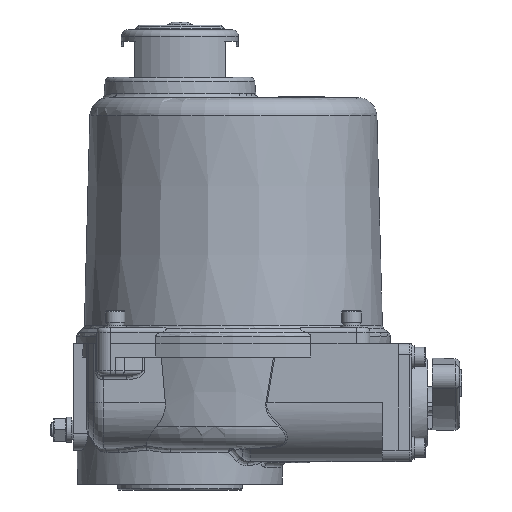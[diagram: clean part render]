
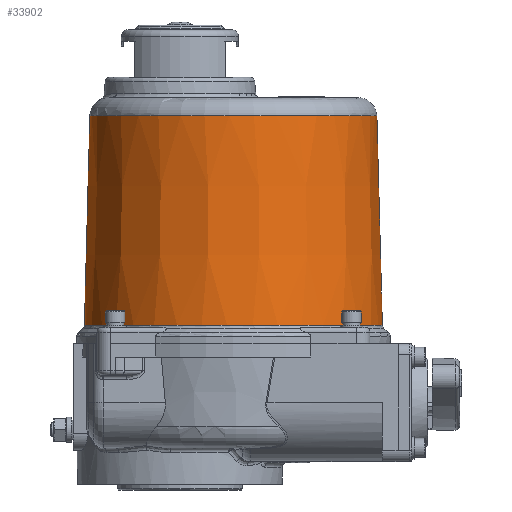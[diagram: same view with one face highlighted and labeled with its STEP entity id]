
A CAD part, left-side view. The second image highlights one B-rep face of the part: STEP entity #33902.
In plain terms, the highlighted conical face has half-angle 1.5 degrees and reference radius 64.336 mm.
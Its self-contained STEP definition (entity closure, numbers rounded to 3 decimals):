
#33902=ADVANCED_FACE('',(#54180,#54182),#54184,.T.);
#54180=FACE_BOUND('',#54181,.T.);
#54181=EDGE_LOOP('',(#68514,#68515));
#54182=FACE_BOUND('',#54183,.T.);
#54183=EDGE_LOOP('',(#68516,#68517));
#54184=CONICAL_SURFACE('',#54185,64.336,0.026);
#54185=AXIS2_PLACEMENT_3D('',#54186,#54187,#54188);
#54186=CARTESIAN_POINT('',(-239.946,-11.892,116.043));
#54187=DIRECTION('',(0.,0.,-1.));
#54188=DIRECTION('',(0.,-1.,0.));
#68514=ORIENTED_EDGE('',*,*,#78597,.F.);
#68515=ORIENTED_EDGE('',*,*,#78598,.F.);
#68516=ORIENTED_EDGE('',*,*,#78350,.T.);
#68517=ORIENTED_EDGE('',*,*,#78349,.T.);
#78349=EDGE_CURVE('',#97591,#97592,#97593,.T.);
#78350=EDGE_CURVE('',#97592,#97591,#97594,.T.);
#78597=EDGE_CURVE('',#98039,#98040,#98041,.T.);
#78598=EDGE_CURVE('',#98040,#98039,#98042,.T.);
#97591=VERTEX_POINT('',#132426);
#97592=VERTEX_POINT('',#132427);
#97593=CIRCLE('',#132428,65.545);
#97594=CIRCLE('',#132432,65.545);
#98039=VERTEX_POINT('',#134232);
#98040=VERTEX_POINT('',#134233);
#98041=CIRCLE('',#134234,63.127);
#98042=CIRCLE('',#134238,63.127);
#132426=CARTESIAN_POINT('',(-254.822,-75.727,69.876));
#132427=CARTESIAN_POINT('',(-239.946,-77.437,69.876));
#132428=AXIS2_PLACEMENT_3D('',#132429,#132430,#132431);
#132429=CARTESIAN_POINT('',(-239.946,-11.892,69.876));
#132430=DIRECTION('',(0.,0.,1.));
#132431=DIRECTION('',(-0.227,-0.974,0.));
#132432=AXIS2_PLACEMENT_3D('',#132433,#132434,#132435);
#132433=CARTESIAN_POINT('',(-239.946,-11.892,69.876));
#132434=DIRECTION('',(0.,0.,1.));
#132435=DIRECTION('',(0.,-1.,0.));
#134232=CARTESIAN_POINT('',(-302.42,-20.95,162.209));
#134233=CARTESIAN_POINT('',(-239.946,-75.019,162.209));
#134234=AXIS2_PLACEMENT_3D('',#134235,#134236,#134237);
#134235=CARTESIAN_POINT('',(-239.946,-11.892,162.209));
#134236=DIRECTION('',(0.,0.,1.));
#134237=DIRECTION('',(-0.99,-0.143,0.));
#134238=AXIS2_PLACEMENT_3D('',#134239,#134240,#134241);
#134239=CARTESIAN_POINT('',(-239.946,-11.892,162.209));
#134240=DIRECTION('',(0.,0.,1.));
#134241=DIRECTION('',(0.,-1.,0.));
